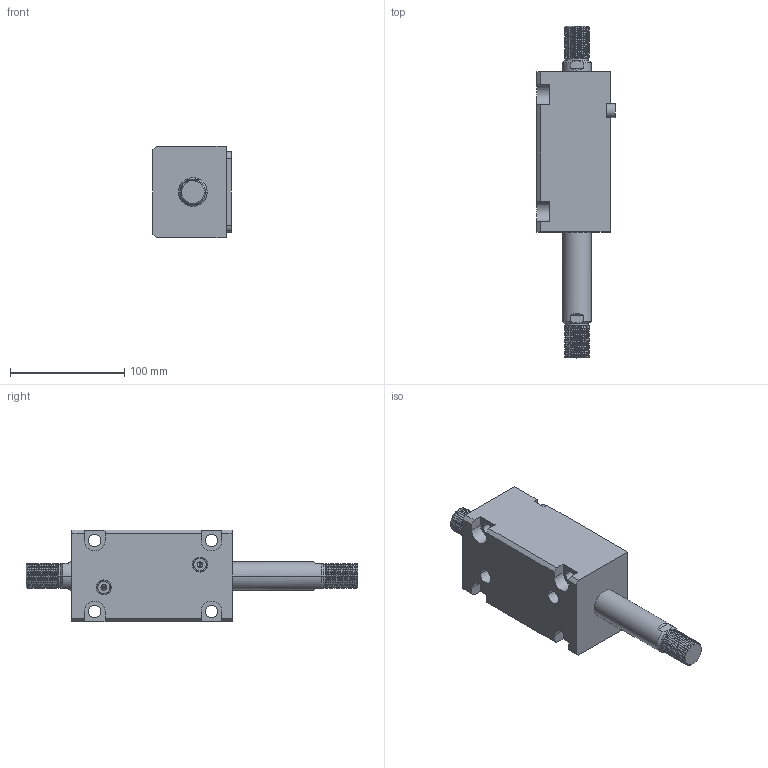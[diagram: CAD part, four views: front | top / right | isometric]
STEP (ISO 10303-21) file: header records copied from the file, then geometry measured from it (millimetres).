
FILE_DESCRIPTION (( 'STEP AP214' ), '1' );
FILE_NAME ('chtb-lw40x70w_asm.STEP', '2018-06-04T10:14:39', ( 'Windows' ), ( 'Microsoft' ), 'SwSTEP 2.0', 'SolidWorks 2015', '' );
FILE_SCHEMA (( 'AUTOMOTIVE_DESIGN' ));
Length unit declared in the file: millimetre
Products named in the file (5): CHTB-SD40QG; CHTB-LW40X70NBT; CHTB-LA40PJ; chtb-lw40x70w_asm; CHTB-SW40X70NHSG
Assembly tree (4 placements, depth 2):
  chtb-lw40x70w_asm
    CHTB-LA40PJ
    CHTB-LW40X70NBT
    CHTB-SD40QG
    CHTB-SW40X70NHSG
Bounding box: 68.5 x 290 x 80 mm (x, y, z)
Volume: 691971.3 mm3; surface area: 116876.5 mm2
Topology: 4 solids, 4 shells, 258 faces, 711 edges, 473 vertices
Faces by surface type: cylinder 152, plane 59, bspline 18, cone 17, torus 12
Entity records: 17539 total; most frequent: CARTESIAN_POINT 11292, ORIENTED_EDGE 1410, DIRECTION 1124, EDGE_CURVE 705, VERTEX_POINT 473, AXIS2_PLACEMENT_3D 433, EDGE_LOOP 292, ADVANCED_FACE 258
